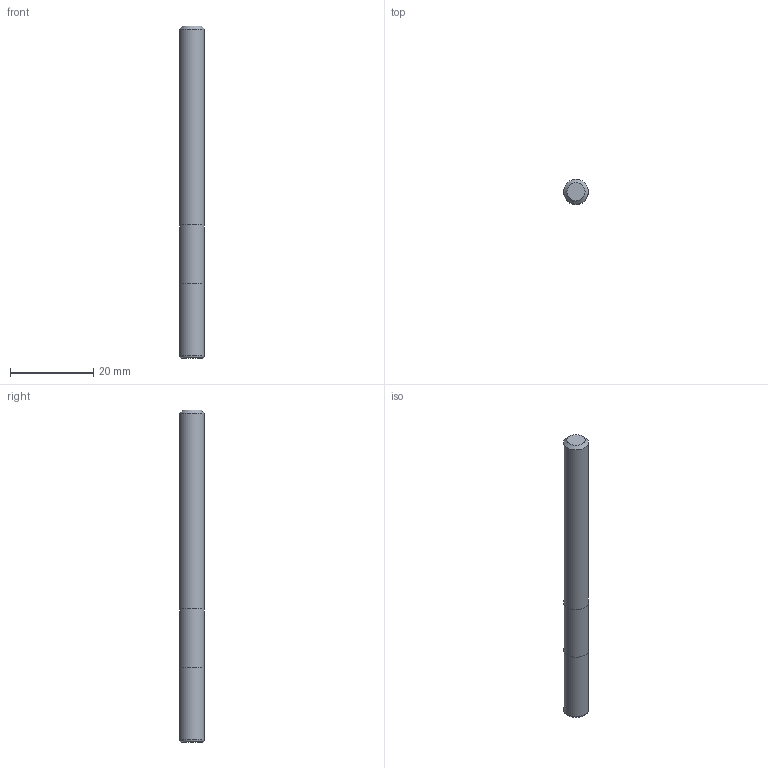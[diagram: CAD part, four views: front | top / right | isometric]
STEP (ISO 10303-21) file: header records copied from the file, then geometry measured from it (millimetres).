
FILE_DESCRIPTION((''),'2;1');
FILE_NAME('C:\Users\nsx150\AppData\Local\Temp\Mastercam 2021\03UJLO2QV3\TEMP.step','2023-09-20T09:29:53',(''),(''),'STEP Write','Mastercam 2021 ... CNC Software, Inc.','');
FILE_SCHEMA(('AUTOMOTIVE_DESIGN'));
Length unit declared in the file: millimetre
Products named in the file (1): None
Bounding box: 6 x 6 x 80 mm (x, y, z)
Volume: 2255.5 mm3; surface area: 1607.2 mm2
Topology: 2 solids, 2 shells, 9 faces, 12 edges, 7 vertices
Faces by surface type: plane 4, cylinder 3, torus 1, cone 1
Full cylindrical faces by diameter (mm): 6 x3
Entity records: 211 total; most frequent: DIRECTION 36, CARTESIAN_POINT 25, AXIS2_PLACEMENT_3D 18, ORIENTED_EDGE 14, EDGE_LOOP 14, STYLED_ITEM 12, ADVANCED_FACE 9, FACE_BOUND 9
